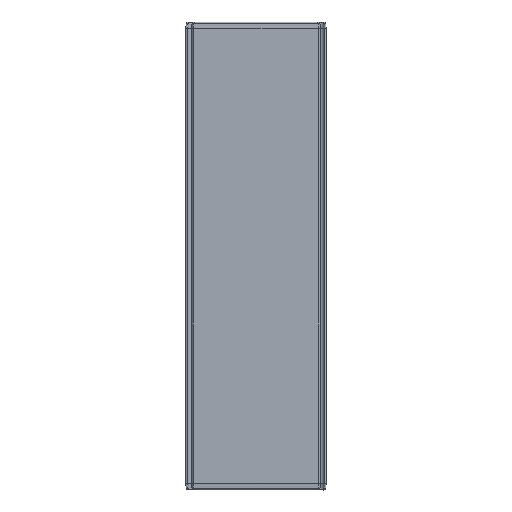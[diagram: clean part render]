
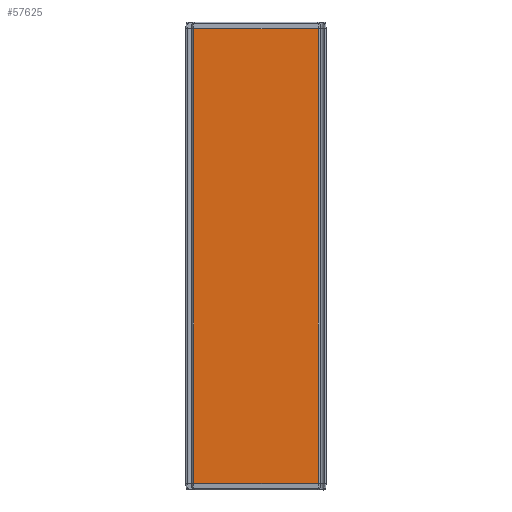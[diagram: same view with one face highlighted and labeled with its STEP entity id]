
A CAD part, top view. The second image highlights one B-rep face of the part: STEP entity #57625.
In plain terms, the highlighted planar face has unit normal (0, 0, 1).
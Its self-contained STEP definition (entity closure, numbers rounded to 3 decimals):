
#57320 = EDGE_CURVE('',#57321,#57323,#57325,.T.);
#57321 = VERTEX_POINT('',#57322);
#57322 = CARTESIAN_POINT('',(200.,-727.972,51.));
#57323 = VERTEX_POINT('',#57324);
#57324 = CARTESIAN_POINT('',(200.,727.972,51.));
#57325 = LINE('',#57326,#57327);
#57326 = CARTESIAN_POINT('',(200.,-727.972,51.));
#57327 = VECTOR('',#57328,1.);
#57328 = DIRECTION('',(0.,1.,0.));
#57387 = EDGE_CURVE('',#57388,#57323,#57390,.T.);
#57388 = VERTEX_POINT('',#57389);
#57389 = CARTESIAN_POINT('',(-200.,727.972,51.));
#57390 = LINE('',#57391,#57392);
#57391 = CARTESIAN_POINT('',(-200.,727.972,51.));
#57392 = VECTOR('',#57393,1.);
#57393 = DIRECTION('',(1.,0.,0.));
#57606 = VERTEX_POINT('',#57607);
#57607 = CARTESIAN_POINT('',(-200.,-727.972,51.));
#57614 = EDGE_CURVE('',#57606,#57388,#57615,.T.);
#57615 = LINE('',#57616,#57617);
#57616 = CARTESIAN_POINT('',(-200.,-727.972,51.));
#57617 = VECTOR('',#57618,1.);
#57618 = DIRECTION('',(0.,1.,0.));
#57625 = ADVANCED_FACE('',(#57626),#57637,.T.);
#57626 = FACE_BOUND('',#57627,.F.);
#57627 = EDGE_LOOP('',(#57628,#57629,#57630,#57636));
#57628 = ORIENTED_EDGE('',*,*,#57387,.T.);
#57629 = ORIENTED_EDGE('',*,*,#57320,.F.);
#57630 = ORIENTED_EDGE('',*,*,#57631,.T.);
#57631 = EDGE_CURVE('',#57321,#57606,#57632,.T.);
#57632 = LINE('',#57633,#57634);
#57633 = CARTESIAN_POINT('',(200.,-727.972,51.));
#57634 = VECTOR('',#57635,1.);
#57635 = DIRECTION('',(-1.,0.,0.));
#57636 = ORIENTED_EDGE('',*,*,#57614,.T.);
#57637 = PLANE('',#57638);
#57638 = AXIS2_PLACEMENT_3D('',#57639,#57640,#57641);
#57639 = CARTESIAN_POINT('',(-200.,-729.25,51.));
#57640 = DIRECTION('',(0.,0.,1.));
#57641 = DIRECTION('',(1.,0.,-0.));
